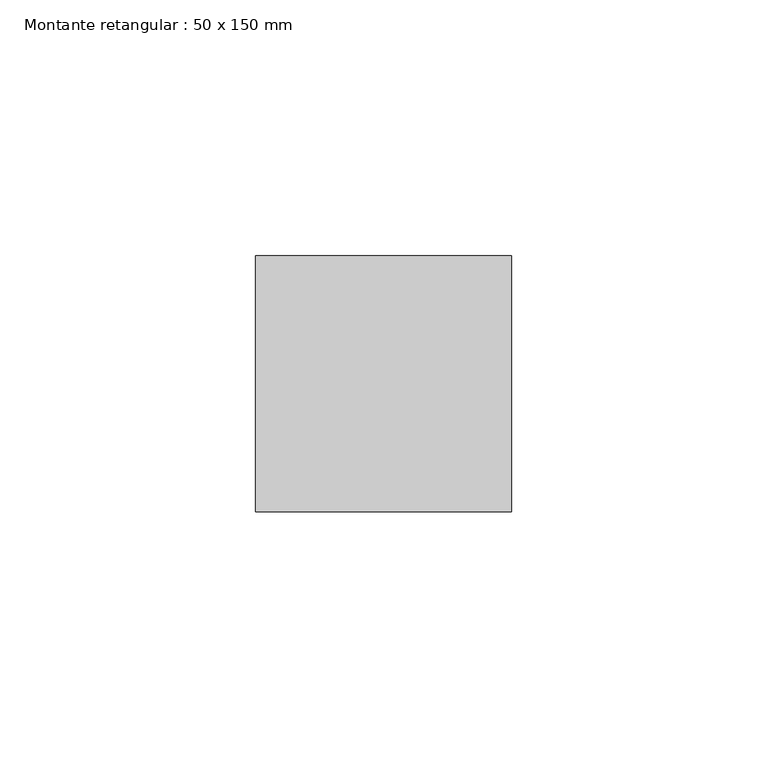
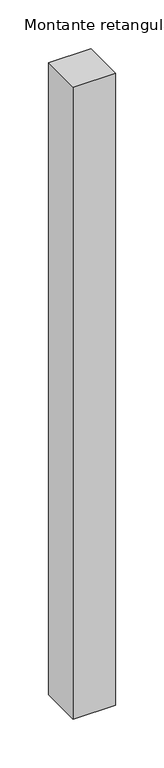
"""IFC4 building model written with IfcOpenShell, lengths in millimetres: member geometry, Montante retangular : 50 x 150 mm."""

from ifc_helpers import new_model, si_unit, frame, origin, place, context, project, spatial, polyline, outline, extrude, source, transform, mapped, element, save


def montante_retangular_50_x_150_mm_6eb82500(model_context):
    return source(origin(), model_context, "Body", "SweptSolid", [
        extrude(outline(polyline([(25.0, 25.0), (25.0, -25.0), (-25.0, -25.0), (-25.0, 25.0), (25.0, 25.0)])), frame((0.0, 0.0, -790.0), z_axis=(0.0, 0.0, 1.0), x_axis=(1.0, 0.0, 0.0)), (0.0, 0.0, 1.0), 790.0),
    ])


if __name__ == "__main__":
    model = new_model("IFC4")
    model_context = context("Model", 3, world=origin())
    ifc_project = project(units=[si_unit("LENGTHUNIT", "METRE", prefix="MILLI")], contexts=[model_context])
    site = spatial("IfcSite", under=ifc_project)
    building = spatial("IfcBuilding", under=site)
    placement = place(None, origin())
    montante_retangular_50_x_150_mm_shape = montante_retangular_50_x_150_mm_6eb82500(model_context)
    element("IfcMember", 1, ObjectType="Montante retangular : 50 x 150 mm", at=placement, inside=building, context=model_context, shape_type="MappedRepresentation", body=[
        mapped(montante_retangular_50_x_150_mm_shape, transform((0.0, 0.0, 0.0), x_axis=(1.0, 0.0, 0.0), y_axis=(0.0, 1.0, 0.0), z_axis=(0.0, 0.0, 1.0))),
    ])
    save(model, "model.ifc")
